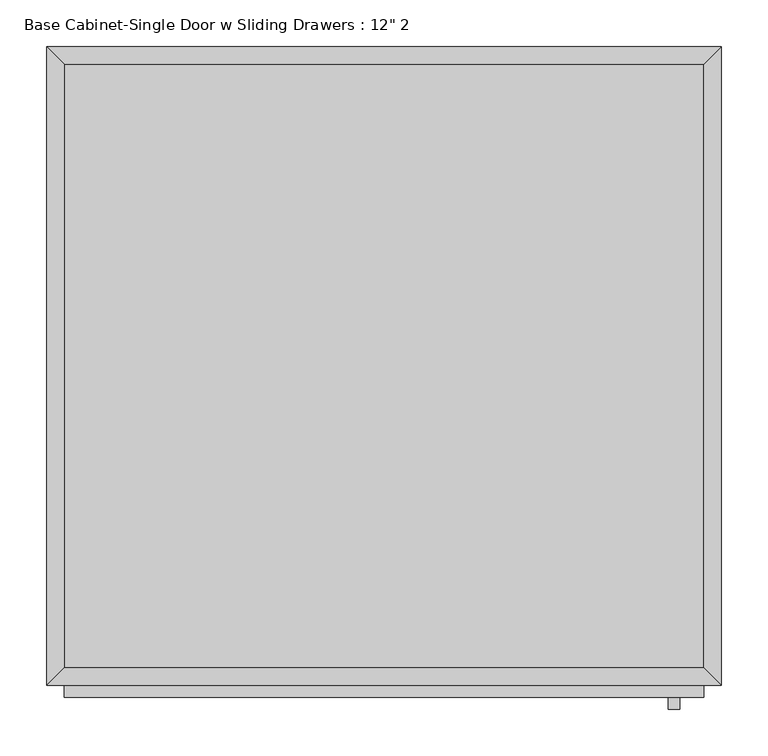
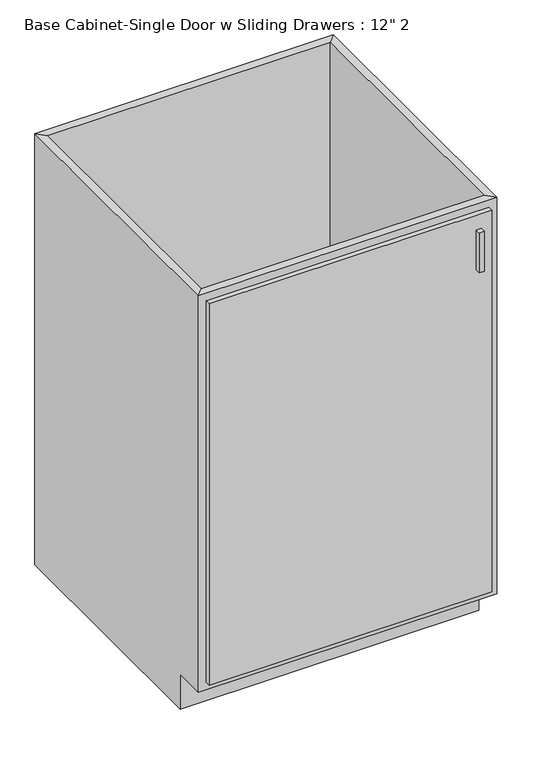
"""IFC4 building model written with IfcOpenShell, lengths in millimetres: furniture geometry."""

from ifc_helpers import new_model, si_unit, frame, origin, place, context, project, spatial, polyline, outline, extrude, faceted_brep, source, transform, mapped, element, save


def furniture_b5a66020(model_context):
    return source(origin(), model_context, "Body", "SolidModel", [
        faceted_brep([(361.6377049, -666.75, 1105.3960937), (361.6377049, -666.75, 88.9), (-324.1622951, -666.75, 88.9), (-324.1622951, -666.75, 1105.3960937), (-343.2122951, -685.8, 1105.3960937), (380.6877049, -685.8, 1105.3960937), (-343.2122951, -685.8, 88.9), (380.6877049, -685.8, 88.9), (-324.1622951, -609.6, 88.9), (-324.1622951, -19.05, 88.9), (-324.1622951, -19.05, 1105.3960937), (-343.2122951, 0.0, 1105.3960937), (-343.2122951, 0.0, 0.0), (-343.2122951, -609.6, 0.0), (-343.2122951, -609.6, 88.9), (361.6377049, -19.05, 88.9), (361.6377049, -19.05, 1105.3960937), (380.6877049, 0.0, 1105.3960937), (380.6877049, 0.0, 0.0), (361.6377049, -609.6, 88.9), (380.6877049, -609.6, 88.9), (380.6877049, -609.6, 0.0)], [[[0, 1, 2, 3]], [[0, 3, 4, 5]], [[5, 4, 6, 7]], [[2, 1, 7, 6]], [[3, 2, 8, 9, 10]], [[4, 3, 10, 11]], [[6, 4, 11, 12, 13, 14]], [[2, 6, 14, 8]], [[10, 9, 15, 16]], [[11, 10, 16, 17]], [[12, 11, 17, 18]], [[1, 0, 16, 15, 19]], [[0, 5, 17, 16]], [[5, 7, 20, 21, 18, 17]], [[7, 1, 19, 20]], [[8, 19, 15, 9]], [[18, 21, 13, 12]], [[13, 21, 20, 19, 8, 14]]]),
        extrude(outline(polyline([(361.6377049, -19.05), (361.6377049, -666.75), (-324.1622951, -666.75), (-324.1622951, -19.05), (361.6377049, -19.05)])), frame((0.0, 0.0, 88.9), z_axis=(0.0, 0.0, 1.0), x_axis=(1.0, 0.0, 0.0)), (0.0, 0.0, 1.0), 19.05),
        extrude(outline(polyline([(336.2377049, -711.2), (323.5377049, -711.2), (323.5377049, -698.5), (336.2377049, -698.5), (336.2377049, -711.2)])), frame((0.0, 0.0, 946.6460938), z_axis=(0.0, 0.0, 1.0), x_axis=(1.0, 0.0, 0.0)), (0.0, 0.0, 1.0), 101.6),
        extrude(outline(polyline([(361.6377049, -698.5), (-324.1622951, -698.5), (-324.1622951, -685.8), (361.6377049, -685.8), (361.6377049, -698.5)])), frame((0.0, 0.0, 107.95), z_axis=(0.0, 0.0, 1.0), x_axis=(1.0, 0.0, 0.0)), (0.0, 0.0, 1.0), 978.3960938),
    ])


if __name__ == "__main__":
    model = new_model("IFC4")
    model_context = context("Model", 3, world=origin())
    ifc_project = project(units=[si_unit("LENGTHUNIT", "METRE", prefix="MILLI")], contexts=[model_context])
    site = spatial("IfcSite", under=ifc_project)
    building = spatial("IfcBuilding", under=site)
    placement = place(None, origin())
    furniture_shape = furniture_b5a66020(model_context)
    element("IfcFurniture", 1, ObjectType="Base Cabinet-Single Door w Sliding Drawers : 12\" 2", at=placement, inside=building, context=model_context, shape_type="MappedRepresentation", body=[
        mapped(furniture_shape, transform((0.0, 0.0, 0.0), x_axis=(1.0, 0.0, 0.0), y_axis=(0.0, 1.0, 0.0), z_axis=(0.0, 0.0, 1.0))),
    ])
    save(model, "model.ifc")
